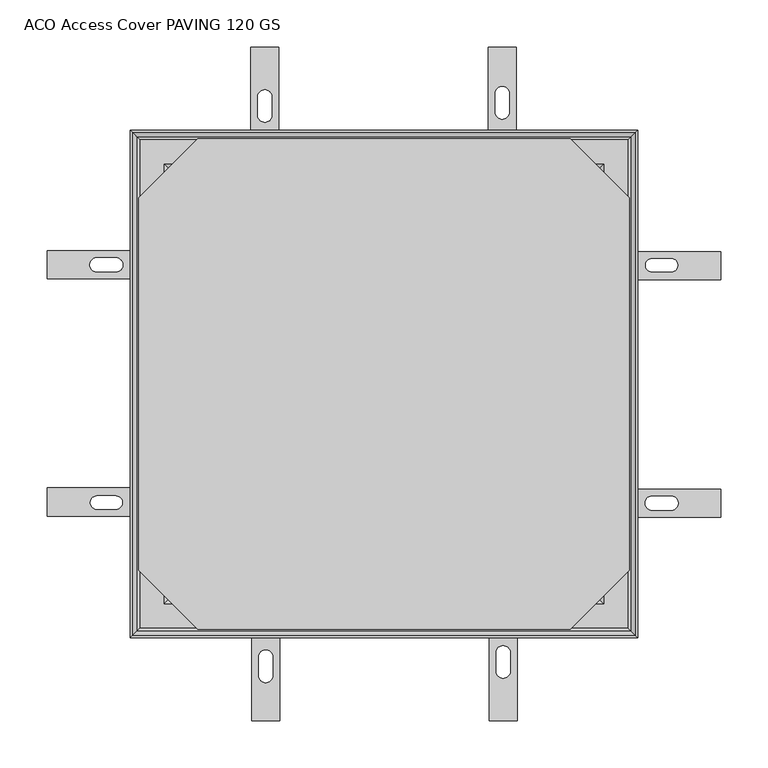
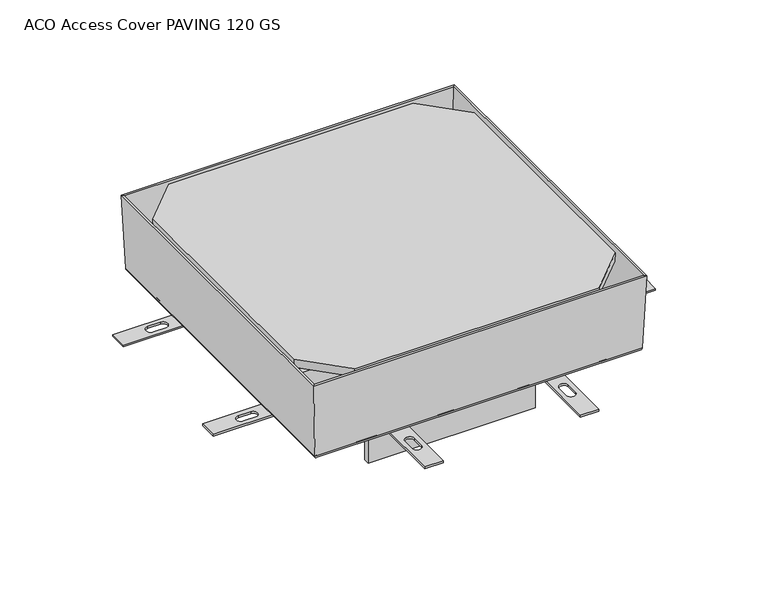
"""IFC4 building model written with IfcOpenShell, lengths in millimetres: proxy geometry, ACO Access Cover PAVING 120 GS : ACO Access Cover PAVING 120 400 x 400 C250 GS."""

from ifc_helpers import new_model, si_unit, point, frame, frame_2d, origin, place, context, project, spatial, polyline, circle_curve, ellipse_curve, trimmed, segment, composite_curve, outline, extrude, faceted_brep, source, transform, mapped, element, save
from ifc_brep_helpers import plane_surface, cylinder_surface, revolved_surface, advanced_brep


def aco_access_cover_paving_120_gs_35cc5e94(model_context):
    return source(origin(), model_context, "Body", "SolidModel", [
        advanced_brep(
        [(199.9602468, 199.9602468, -138.0001426), (205.9602468, 205.9602468, -144.0001426), (205.9602468, -205.9602468, -144.0001426), (199.9602468, -199.9602468, -138.0001426), (199.9602468, 199.9602468, -129.0001426), (199.9602468, -199.9602468, -129.0001426), (202.9602468, 202.9602468, -138.0001426), (202.9602468, 202.9602468, -129.0001426), (202.9602468, -202.9602468, -129.0001426), (202.9602468, -202.9602468, -138.0001426), (205.9602468, 205.9602468, -141.0001426), (205.9602468, -205.9602468, -141.0001426), (217.5962858, 217.5962858, -140.1214629), (215.4749655, 215.4749655, -141.0001426), (215.4749655, -215.4749655, -141.0001426), (217.5962858, -217.5962858, -140.1214629), (228.9602468, 228.9602468, -128.7575019), (228.9602468, -228.9602468, -128.7575019), (233.2028875, 233.2028875, -127.0001426), (233.2028875, -233.2028875, -127.0001426), (262.1642867, 262.1642867, -124.104841), (259.1661142, 259.1661142, -127.0001426), (259.1661142, -259.1661142, -127.0001426), (262.1642867, -262.1642867, -124.104841), (266.5017744, 266.5017744, 0.1045559), (266.5017744, -266.5017744, 0.1045559), (269.4999469, 269.4999469, -0.0001426), (269.4999469, -269.4999469, -0.0001426), (265.1624592, 265.1624592, -124.2095395), (265.1624592, -265.1624592, -124.2095395), (259.1661142, 259.1661142, -130.0001426), (259.1661142, -259.1661142, -130.0001426), (231.0815672, 231.0815672, -130.8788222), (233.2028875, 233.2028875, -130.0001426), (233.2028875, -233.2028875, -130.0001426), (231.0815672, -231.0815672, -130.8788222), (219.7176062, 219.7176062, -142.2427832), (219.7176062, -219.7176062, -142.2427832), (215.4749655, 215.4749655, -144.0001426), (215.4749655, -215.4749655, -144.0001426), (-205.9602468, -205.9602468, -144.0001426), (-199.9602468, -199.9602468, -138.0001426), (-199.9602468, -199.9602468, -129.0001426), (-202.9602468, -202.9602468, -129.0001426), (-202.9602468, -202.9602468, -138.0001426), (-205.9602468, -205.9602468, -141.0001426), (-215.4749655, -215.4749655, -141.0001426), (-217.5962858, -217.5962858, -140.1214629), (-228.9602468, -228.9602468, -128.7575019), (-233.2028875, -233.2028875, -127.0001426), (-259.1661142, -259.1661142, -127.0001426), (-262.1642867, -262.1642867, -124.104841), (-266.5017744, -266.5017744, 0.1045559), (-269.4999469, -269.4999469, -0.0001426), (-265.1624592, -265.1624592, -124.2095395), (-259.1661142, -259.1661142, -130.0001426), (-233.2028875, -233.2028875, -130.0001426), (-231.0815672, -231.0815672, -130.8788222), (-219.7176062, -219.7176062, -142.2427832), (-215.4749655, -215.4749655, -144.0001426), (-205.9602468, 205.9602468, -144.0001426), (-199.9602468, 199.9602468, -138.0001426), (-199.9602468, 199.9602468, -129.0001426), (-202.9602468, 202.9602468, -129.0001426), (-202.9602468, 202.9602468, -138.0001426), (-205.9602468, 205.9602468, -141.0001426), (-215.4749655, 215.4749655, -141.0001426), (-217.5962858, 217.5962858, -140.1214629), (-228.9602468, 228.9602468, -128.7575019), (-233.2028875, 233.2028875, -127.0001426), (-259.1661142, 259.1661142, -127.0001426), (-262.1642867, 262.1642867, -124.104841), (-266.5017744, 266.5017744, 0.1045559), (-269.4999469, 269.4999469, -0.0001426), (-265.1624592, 265.1624592, -124.2095395), (-259.1661142, 259.1661142, -130.0001426), (-233.2028875, 233.2028875, -130.0001426), (-231.0815672, 231.0815672, -130.8788222), (-219.7176062, 219.7176062, -142.2427832), (-215.4749655, 215.4749655, -144.0001426)],
        [
            (0, 1, ellipse_curve(frame((205.9602468, 205.9602468, -138.0001426), z_axis=(0.7071067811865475, -0.7071067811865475, 0.0), x_axis=(0.7071067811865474, 0.7071067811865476, 0.0)), 8.4852814, 6.0)),
            (1, 2),
            (2, 3, ellipse_curve(frame((205.9602468, -205.9602468, -138.0001426), z_axis=(0.7071067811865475, 0.7071067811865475, 0.0), x_axis=(-0.7071067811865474, 0.7071067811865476, 0.0)), 8.4852814, 6.0)),
            (3, 0),
            (4, 0),
            (3, 5),
            (5, 4),
            (6, 7),
            (7, 8),
            (8, 9),
            (9, 6),
            (10, 6, ellipse_curve(frame((205.9602468, 205.9602468, -138.0001426), z_axis=(-0.7071067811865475, 0.7071067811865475, 0.0), x_axis=(-0.7071067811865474, -0.7071067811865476, 0.0)), 4.2426407, 3.0)),
            (9, 11, ellipse_curve(frame((205.9602468, -205.9602468, -138.0001426), z_axis=(-0.7071067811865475, -0.7071067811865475, 0.0), x_axis=(0.7071067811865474, -0.7071067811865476, 0.0)), 4.2426407, 3.0)),
            (11, 10),
            (12, 13, ellipse_curve(frame((215.4749655, 215.4749655, -138.0001426), z_axis=(-0.7071067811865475, 0.7071067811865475, 0.0), x_axis=(-0.7071067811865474, -0.7071067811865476, 0.0)), 4.2426407, 3.0)),
            (13, 14),
            (14, 15, ellipse_curve(frame((215.4749655, -215.4749655, -138.0001426), z_axis=(-0.7071067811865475, -0.7071067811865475, 0.0), x_axis=(0.7071067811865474, -0.7071067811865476, 0.0)), 4.2426407, 3.0)),
            (15, 12),
            (16, 12),
            (15, 17),
            (17, 16),
            (18, 16, ellipse_curve(frame((233.2028875, 233.2028875, -133.0001426), z_axis=(0.7071067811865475, -0.7071067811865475, 0.0), x_axis=(0.7071067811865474, 0.7071067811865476, 0.0)), 8.4852814, 6.0)),
            (17, 19, ellipse_curve(frame((233.2028875, -233.2028875, -133.0001426), z_axis=(0.7071067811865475, 0.7071067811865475, 0.0), x_axis=(-0.7071067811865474, 0.7071067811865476, 0.0)), 8.4852814, 6.0)),
            (19, 18),
            (20, 21, ellipse_curve(frame((259.1661142, 259.1661142, -124.0001426), z_axis=(-0.7071067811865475, 0.7071067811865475, 0.0), x_axis=(-0.7071067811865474, -0.7071067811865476, 0.0)), 4.2426407, 3.0)),
            (21, 22),
            (22, 23, ellipse_curve(frame((259.1661142, -259.1661142, -124.0001426), z_axis=(-0.7071067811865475, -0.7071067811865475, 0.0), x_axis=(0.7071067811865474, -0.7071067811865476, 0.0)), 4.2426407, 3.0)),
            (23, 20),
            (24, 20),
            (23, 25),
            (25, 24),
            (26, 24),
            (25, 27),
            (27, 26),
            (28, 26),
            (27, 29),
            (29, 28),
            (30, 28, ellipse_curve(frame((259.1661142, 259.1661142, -124.0001426), z_axis=(0.7071067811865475, -0.7071067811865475, 0.0), x_axis=(0.7071067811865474, 0.7071067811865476, 0.0)), 8.4852814, 6.0)),
            (29, 31, ellipse_curve(frame((259.1661142, -259.1661142, -124.0001426), z_axis=(0.7071067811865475, 0.7071067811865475, 0.0), x_axis=(-0.7071067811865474, 0.7071067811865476, 0.0)), 8.4852814, 6.0)),
            (31, 30),
            (32, 33, ellipse_curve(frame((233.2028875, 233.2028875, -133.0001426), z_axis=(-0.7071067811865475, 0.7071067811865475, 0.0), x_axis=(-0.7071067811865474, -0.7071067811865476, 0.0)), 4.2426407, 3.0)),
            (33, 34),
            (34, 35, ellipse_curve(frame((233.2028875, -233.2028875, -133.0001426), z_axis=(-0.7071067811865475, -0.7071067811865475, 0.0), x_axis=(0.7071067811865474, -0.7071067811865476, 0.0)), 4.2426407, 3.0)),
            (35, 32),
            (36, 32),
            (35, 37),
            (37, 36),
            (38, 36, ellipse_curve(frame((215.4749655, 215.4749655, -138.0001426), z_axis=(0.7071067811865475, -0.7071067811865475, 0.0), x_axis=(0.7071067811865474, 0.7071067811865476, 0.0)), 8.4852814, 6.0)),
            (37, 39, ellipse_curve(frame((215.4749655, -215.4749655, -138.0001426), z_axis=(0.7071067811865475, 0.7071067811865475, 0.0), x_axis=(-0.7071067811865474, 0.7071067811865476, 0.0)), 8.4852814, 6.0)),
            (39, 38),
            (2, 40),
            (40, 41, ellipse_curve(frame((-205.9602468, -205.9602468, -138.0001426), z_axis=(0.7071067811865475, -0.7071067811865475, 0.0), x_axis=(0.7071067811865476, 0.7071067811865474, 0.0)), 8.4852814, 6.0)),
            (41, 3),
            (41, 42),
            (42, 5),
            (8, 43),
            (43, 44),
            (44, 9),
            (44, 45, ellipse_curve(frame((-205.9602468, -205.9602468, -138.0001426), z_axis=(-0.7071067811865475, 0.7071067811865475, 0.0), x_axis=(-0.7071067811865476, -0.7071067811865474, 0.0)), 4.2426407, 3.0)),
            (45, 11),
            (14, 46),
            (46, 47, ellipse_curve(frame((-215.4749655, -215.4749655, -138.0001426), z_axis=(-0.7071067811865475, 0.7071067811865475, 0.0), x_axis=(-0.7071067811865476, -0.7071067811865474, 0.0)), 4.2426407, 3.0)),
            (47, 15),
            (47, 48),
            (48, 17),
            (48, 49, ellipse_curve(frame((-233.2028875, -233.2028875, -133.0001426), z_axis=(0.7071067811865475, -0.7071067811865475, 0.0), x_axis=(0.7071067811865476, 0.7071067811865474, 0.0)), 8.4852814, 6.0)),
            (49, 19),
            (22, 50),
            (50, 51, ellipse_curve(frame((-259.1661142, -259.1661142, -124.0001426), z_axis=(-0.7071067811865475, 0.7071067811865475, 0.0), x_axis=(-0.7071067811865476, -0.7071067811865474, 0.0)), 4.2426407, 3.0)),
            (51, 23),
            (51, 52),
            (52, 25),
            (52, 53),
            (53, 27),
            (53, 54),
            (54, 29),
            (54, 55, ellipse_curve(frame((-259.1661142, -259.1661142, -124.0001426), z_axis=(0.7071067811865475, -0.7071067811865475, 0.0), x_axis=(0.7071067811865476, 0.7071067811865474, 0.0)), 8.4852814, 6.0)),
            (55, 31),
            (34, 56),
            (56, 57, ellipse_curve(frame((-233.2028875, -233.2028875, -133.0001426), z_axis=(-0.7071067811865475, 0.7071067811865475, 0.0), x_axis=(-0.7071067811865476, -0.7071067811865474, 0.0)), 4.2426407, 3.0)),
            (57, 35),
            (57, 58),
            (58, 37),
            (58, 59, ellipse_curve(frame((-215.4749655, -215.4749655, -138.0001426), z_axis=(0.7071067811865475, -0.7071067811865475, 0.0), x_axis=(0.7071067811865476, 0.7071067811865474, 0.0)), 8.4852814, 6.0)),
            (59, 39),
            (40, 60),
            (60, 61, ellipse_curve(frame((-205.9602468, 205.9602468, -138.0001426), z_axis=(-0.7071067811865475, -0.7071067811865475, 0.0), x_axis=(0.7071067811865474, -0.7071067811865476, 0.0)), 8.4852814, 6.0)),
            (61, 41),
            (61, 62),
            (62, 42),
            (43, 63),
            (63, 64),
            (64, 44),
            (64, 65, ellipse_curve(frame((-205.9602468, 205.9602468, -138.0001426), z_axis=(0.7071067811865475, 0.7071067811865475, 0.0), x_axis=(-0.7071067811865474, 0.7071067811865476, 0.0)), 4.2426407, 3.0)),
            (65, 45),
            (46, 66),
            (66, 67, ellipse_curve(frame((-215.4749655, 215.4749655, -138.0001426), z_axis=(0.7071067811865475, 0.7071067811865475, 0.0), x_axis=(-0.7071067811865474, 0.7071067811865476, 0.0)), 4.2426407, 3.0)),
            (67, 47),
            (67, 68),
            (68, 48),
            (68, 69, ellipse_curve(frame((-233.2028875, 233.2028875, -133.0001426), z_axis=(-0.7071067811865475, -0.7071067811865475, 0.0), x_axis=(0.7071067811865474, -0.7071067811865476, 0.0)), 8.4852814, 6.0)),
            (69, 49),
            (50, 70),
            (70, 71, ellipse_curve(frame((-259.1661142, 259.1661142, -124.0001426), z_axis=(0.7071067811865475, 0.7071067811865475, 0.0), x_axis=(-0.7071067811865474, 0.7071067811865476, 0.0)), 4.2426407, 3.0)),
            (71, 51),
            (71, 72),
            (72, 52),
            (72, 73),
            (73, 53),
            (73, 74),
            (74, 54),
            (74, 75, ellipse_curve(frame((-259.1661142, 259.1661142, -124.0001426), z_axis=(-0.7071067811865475, -0.7071067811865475, 0.0), x_axis=(0.7071067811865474, -0.7071067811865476, 0.0)), 8.4852814, 6.0)),
            (75, 55),
            (56, 76),
            (76, 77, ellipse_curve(frame((-233.2028875, 233.2028875, -133.0001426), z_axis=(0.7071067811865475, 0.7071067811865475, 0.0), x_axis=(-0.7071067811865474, 0.7071067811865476, 0.0)), 4.2426407, 3.0)),
            (77, 57),
            (77, 78),
            (78, 58),
            (78, 79, ellipse_curve(frame((-215.4749655, 215.4749655, -138.0001426), z_axis=(-0.7071067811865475, -0.7071067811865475, 0.0), x_axis=(0.7071067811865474, -0.7071067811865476, 0.0)), 8.4852814, 6.0)),
            (79, 59),
            (60, 1),
            (0, 61),
            (4, 62),
            (7, 63),
            (6, 64),
            (10, 65),
            (13, 66),
            (12, 67),
            (16, 68),
            (18, 69),
            (21, 70),
            (20, 71),
            (24, 72),
            (26, 73),
            (28, 74),
            (30, 75),
            (33, 76),
            (32, 77),
            (36, 78),
            (38, 79),
        ],
        [
            cylinder_surface(frame((205.9602468, 269.5, -138.0001426), z_axis=(0.0, 1.0, 0.0), x_axis=(1.0, 0.0, 0.0)), 6.0),
            plane_surface(frame((199.9602468, 199.9602468, -138.0001426), z_axis=(-1.0, 0.0, 0.0), x_axis=(0.0, -1.0, 0.0))),
            plane_surface(frame((202.9602468, 202.9602468, -129.0001426), z_axis=(1.0, 0.0, 0.0), x_axis=(0.0, -1.0, 0.0))),
            revolved_surface(polyline([(208.9602468, -208.960246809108, -138.0001426), (208.9602468, 208.96024680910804, -138.0001426)]), (205.9602468, 269.5, -138.0001426), (0.0, -1.0, 0.0)),
            revolved_surface(polyline([(218.4749655, -218.47496550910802, -138.0001426), (218.4749655, 218.47496550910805, -138.0001426)]), (215.4749655, 269.5, -138.0001426), (0.0, -1.0, 0.0)),
            plane_surface(frame((217.5962858, 217.5962858, -140.1214629), z_axis=(-0.7071067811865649, 0.0, 0.7071067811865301), x_axis=(0.0, -1.0, 0.0))),
            cylinder_surface(frame((233.2028875, 269.5, -133.0001426), z_axis=(0.0, 1.0, 0.0), x_axis=(1.0, 0.0, 0.0)), 6.0),
            revolved_surface(polyline([(262.1661142, -262.16611420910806, -124.0001426), (262.1661142, 262.166114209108, -124.0001426)]), (259.1661142, 269.5, -124.0001426), (0.0, -1.0, 0.0)),
            plane_surface(frame((262.1642867, 262.1642867, -124.104841), z_axis=(-0.9993908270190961, 0.0, 0.03489949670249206), x_axis=(0.0, -1.0, 0.0))),
            plane_surface(frame((266.5017744, 266.5017744, 0.1045559), z_axis=(0.03489949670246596, 0.0, 0.999390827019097), x_axis=(0.0, -1.0, 0.0))),
            plane_surface(frame((269.4999469, 269.4999469, -0.0001426), z_axis=(0.9993908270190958, 0.0, -0.03489949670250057), x_axis=(0.0, -1.0, 0.0))),
            cylinder_surface(frame((259.1661142, 269.5, -124.0001426), z_axis=(0.0, 1.0, 0.0), x_axis=(1.0, 0.0, 0.0)), 6.0),
            revolved_surface(polyline([(236.2028875, -236.202887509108, -133.0001426), (236.2028875, 236.20288750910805, -133.0001426)]), (233.2028875, 269.5, -133.0001426), (0.0, -1.0, 0.0)),
            plane_surface(frame((231.0815672, 231.0815672, -130.8788222), z_axis=(0.7071067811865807, 0.0, -0.7071067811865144), x_axis=(0.0, -1.0, 0.0))),
            cylinder_surface(frame((215.4749655, 269.5, -138.0001426), z_axis=(0.0, 1.0, 0.0), x_axis=(1.0, 0.0, 0.0)), 6.0),
            cylinder_surface(frame((269.5, -205.9602468, -138.0001426), z_axis=(1.0, 0.0, 0.0), x_axis=(0.0, -1.0, 0.0)), 6.0),
            plane_surface(frame((199.9602468, -199.9602468, -138.0001426), z_axis=(0.0, 1.0, 0.0), x_axis=(-1.0, 0.0, 0.0))),
            plane_surface(frame((202.9602468, -202.9602468, -129.0001426), z_axis=(0.0, -1.0, 0.0), x_axis=(-1.0, 0.0, 0.0))),
            revolved_surface(polyline([(-208.960246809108, -208.9602468, -138.0001426), (208.96024680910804, -208.9602468, -138.0001426)]), (269.5, -205.9602468, -138.0001426), (-1.0, 0.0, 0.0)),
            revolved_surface(polyline([(-218.47496550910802, -218.4749655, -138.0001426), (218.47496550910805, -218.4749655, -138.0001426)]), (269.5, -215.4749655, -138.0001426), (-1.0, 0.0, 0.0)),
            plane_surface(frame((217.5962858, -217.5962858, -140.1214629), z_axis=(0.0, 0.7071067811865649, 0.7071067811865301), x_axis=(-1.0, 0.0, 0.0))),
            cylinder_surface(frame((269.5, -233.2028875, -133.0001426), z_axis=(1.0, 0.0, 0.0), x_axis=(0.0, -1.0, 0.0)), 6.0),
            revolved_surface(polyline([(-262.16611420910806, -262.1661142, -124.0001426), (262.166114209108, -262.1661142, -124.0001426)]), (269.5, -259.1661142, -124.0001426), (-1.0, 0.0, 0.0)),
            plane_surface(frame((262.1642867, -262.1642867, -124.104841), z_axis=(0.0, 0.9993908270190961, 0.03489949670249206), x_axis=(-1.0, 0.0, 0.0))),
            plane_surface(frame((266.5017744, -266.5017744, 0.1045559), z_axis=(0.0, -0.03489949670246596, 0.999390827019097), x_axis=(-1.0, 0.0, 0.0))),
            plane_surface(frame((269.4999469, -269.4999469, -0.0001426), z_axis=(0.0, -0.9993908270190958, -0.03489949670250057), x_axis=(-1.0, 0.0, 0.0))),
            cylinder_surface(frame((269.5, -259.1661142, -124.0001426), z_axis=(1.0, 0.0, 0.0), x_axis=(0.0, -1.0, 0.0)), 6.0),
            revolved_surface(polyline([(-236.202887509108, -236.2028875, -133.0001426), (236.20288750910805, -236.2028875, -133.0001426)]), (269.5, -233.2028875, -133.0001426), (-1.0, 0.0, 0.0)),
            plane_surface(frame((231.0815672, -231.0815672, -130.8788222), z_axis=(0.0, -0.7071067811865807, -0.7071067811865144), x_axis=(-1.0, 0.0, 0.0))),
            cylinder_surface(frame((269.5, -215.4749655, -138.0001426), z_axis=(1.0, 0.0, 0.0), x_axis=(0.0, -1.0, 0.0)), 6.0),
            cylinder_surface(frame((-205.9602468, -269.5, -138.0001426), z_axis=(0.0, -1.0, 0.0), x_axis=(-1.0, 0.0, 0.0)), 6.0),
            plane_surface(frame((-199.9602468, -199.9602468, -138.0001426), z_axis=(1.0, 0.0, 0.0), x_axis=(0.0, 1.0, 0.0))),
            plane_surface(frame((-202.9602468, -202.9602468, -129.0001426), z_axis=(-1.0, 0.0, 0.0), x_axis=(0.0, 1.0, 0.0))),
            revolved_surface(polyline([(-208.9602468, 208.960246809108, -138.0001426), (-208.9602468, -208.96024680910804, -138.0001426)]), (-205.9602468, -269.5, -138.0001426), (0.0, 1.0, 0.0)),
            revolved_surface(polyline([(-218.4749655, 218.47496550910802, -138.0001426), (-218.4749655, -218.47496550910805, -138.0001426)]), (-215.4749655, -269.5, -138.0001426), (0.0, 1.0, 0.0)),
            plane_surface(frame((-217.5962858, -217.5962858, -140.1214629), z_axis=(0.7071067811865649, 0.0, 0.7071067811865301), x_axis=(0.0, 1.0, 0.0))),
            cylinder_surface(frame((-233.2028875, -269.5, -133.0001426), z_axis=(0.0, -1.0, 0.0), x_axis=(-1.0, 0.0, 0.0)), 6.0),
            revolved_surface(polyline([(-262.1661142, 262.16611420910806, -124.0001426), (-262.1661142, -262.166114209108, -124.0001426)]), (-259.1661142, -269.5, -124.0001426), (0.0, 1.0, 0.0)),
            plane_surface(frame((-262.1642867, -262.1642867, -124.104841), z_axis=(0.9993908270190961, 0.0, 0.03489949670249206), x_axis=(0.0, 1.0, 0.0))),
            plane_surface(frame((-266.5017744, -266.5017744, 0.1045559), z_axis=(-0.03489949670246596, 0.0, 0.999390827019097), x_axis=(0.0, 1.0, 0.0))),
            plane_surface(frame((-269.4999469, -269.4999469, -0.0001426), z_axis=(-0.9993908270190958, 0.0, -0.03489949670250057), x_axis=(0.0, 1.0, 0.0))),
            cylinder_surface(frame((-259.1661142, -269.5, -124.0001426), z_axis=(0.0, -1.0, 0.0), x_axis=(-1.0, 0.0, 0.0)), 6.0),
            revolved_surface(polyline([(-236.2028875, 236.202887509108, -133.0001426), (-236.2028875, -236.20288750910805, -133.0001426)]), (-233.2028875, -269.5, -133.0001426), (0.0, 1.0, 0.0)),
            plane_surface(frame((-231.0815672, -231.0815672, -130.8788222), z_axis=(-0.7071067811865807, 0.0, -0.7071067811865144), x_axis=(0.0, 1.0, 0.0))),
            cylinder_surface(frame((-215.4749655, -269.5, -138.0001426), z_axis=(0.0, -1.0, 0.0), x_axis=(-1.0, 0.0, 0.0)), 6.0),
            cylinder_surface(frame((-269.5, 205.9602468, -138.0001426), z_axis=(-1.0, 0.0, 0.0), x_axis=(0.0, 1.0, 0.0)), 6.0),
            plane_surface(frame((-199.9602468, 199.9602468, -138.0001426), z_axis=(0.0, -1.0, 0.0), x_axis=(1.0, 0.0, 0.0))),
            plane_surface(frame((-199.9602468, 199.9602468, -129.0001426), z_axis=(0.0, 0.0, 1.0), x_axis=(1.0, 0.0, 0.0))),
            plane_surface(frame((-202.9602468, 202.9602468, -129.0001426), z_axis=(0.0, 1.0, 0.0), x_axis=(1.0, 0.0, 0.0))),
            revolved_surface(polyline([(208.960246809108, 208.9602468, -138.0001426), (-208.96024680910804, 208.9602468, -138.0001426)]), (-269.5, 205.9602468, -138.0001426), (1.0, 0.0, 0.0)),
            plane_surface(frame((-205.9602468, 205.9602468, -141.0001426), z_axis=(0.0, 0.0, 1.0), x_axis=(1.0, 0.0, 0.0))),
            revolved_surface(polyline([(218.47496550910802, 218.4749655, -138.0001426), (-218.47496550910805, 218.4749655, -138.0001426)]), (-269.5, 215.4749655, -138.0001426), (1.0, 0.0, 0.0)),
            plane_surface(frame((-217.5962858, 217.5962858, -140.1214629), z_axis=(0.0, -0.7071067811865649, 0.7071067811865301), x_axis=(1.0, 0.0, 0.0))),
            cylinder_surface(frame((-269.5, 233.2028875, -133.0001426), z_axis=(-1.0, 0.0, 0.0), x_axis=(0.0, 1.0, 0.0)), 6.0),
            plane_surface(frame((-233.2028875, 233.2028875, -127.0001426), z_axis=(0.0, 0.0, 1.0), x_axis=(1.0, 0.0, 0.0))),
            revolved_surface(polyline([(262.16611420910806, 262.1661142, -124.0001426), (-262.166114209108, 262.1661142, -124.0001426)]), (-269.5, 259.1661142, -124.0001426), (1.0, 0.0, 0.0)),
            plane_surface(frame((-262.1642867, 262.1642867, -124.104841), z_axis=(0.0, -0.9993908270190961, 0.03489949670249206), x_axis=(1.0, 0.0, 0.0))),
            plane_surface(frame((-266.5017744, 266.5017744, 0.1045559), z_axis=(0.0, 0.03489949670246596, 0.999390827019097), x_axis=(1.0, 0.0, 0.0))),
            plane_surface(frame((-269.4999469, 269.4999469, -0.0001426), z_axis=(0.0, 0.9993908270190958, -0.03489949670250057), x_axis=(1.0, 0.0, 0.0))),
            cylinder_surface(frame((-269.5, 259.1661142, -124.0001426), z_axis=(-1.0, 0.0, 0.0), x_axis=(0.0, 1.0, 0.0)), 6.0),
            plane_surface(frame((-259.1661142, 259.1661142, -130.0001426), z_axis=(0.0, 0.0, -1.0), x_axis=(1.0, 0.0, 0.0))),
            revolved_surface(polyline([(236.202887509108, 236.2028875, -133.0001426), (-236.20288750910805, 236.2028875, -133.0001426)]), (-269.5, 233.2028875, -133.0001426), (1.0, 0.0, 0.0)),
            plane_surface(frame((-231.0815672, 231.0815672, -130.8788222), z_axis=(0.0, 0.7071067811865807, -0.7071067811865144), x_axis=(1.0, 0.0, 0.0))),
            cylinder_surface(frame((-269.5, 215.4749655, -138.0001426), z_axis=(-1.0, 0.0, 0.0), x_axis=(0.0, 1.0, 0.0)), 6.0),
            plane_surface(frame((-215.4749655, 215.4749655, -144.0001426), z_axis=(0.0, 0.0, -1.0), x_axis=(1.0, 0.0, 0.0))),
        ],
        [
            (0, [[1, 2, 3, 4]]),
            (1, [[5, -4, 6, 7]]),
            (2, [[8, 9, 10, 11]]),
            (3, [[12, -11, 13, 14]]),
            (4, [[15, 16, 17, 18]]),
            (5, [[19, -18, 20, 21]]),
            (6, [[22, -21, 23, 24]]),
            (7, [[25, 26, 27, 28]]),
            (8, [[29, -28, 30, 31]]),
            (9, [[32, -31, 33, 34]]),
            (10, [[35, -34, 36, 37]]),
            (11, [[38, -37, 39, 40]]),
            (12, [[41, 42, 43, 44]]),
            (13, [[45, -44, 46, 47]]),
            (14, [[48, -47, 49, 50]]),
            (15, [[-3, 51, 52, 53]]),
            (16, [[-6, -53, 54, 55]]),
            (17, [[-10, 56, 57, 58]]),
            (18, [[-13, -58, 59, 60]]),
            (19, [[-17, 61, 62, 63]]),
            (20, [[-20, -63, 64, 65]]),
            (21, [[-23, -65, 66, 67]]),
            (22, [[-27, 68, 69, 70]]),
            (23, [[-30, -70, 71, 72]]),
            (24, [[-33, -72, 73, 74]]),
            (25, [[-36, -74, 75, 76]]),
            (26, [[-39, -76, 77, 78]]),
            (27, [[-43, 79, 80, 81]]),
            (28, [[-46, -81, 82, 83]]),
            (29, [[-49, -83, 84, 85]]),
            (30, [[-52, 86, 87, 88]]),
            (31, [[-54, -88, 89, 90]]),
            (32, [[-57, 91, 92, 93]]),
            (33, [[-59, -93, 94, 95]]),
            (34, [[-62, 96, 97, 98]]),
            (35, [[-64, -98, 99, 100]]),
            (36, [[-66, -100, 101, 102]]),
            (37, [[-69, 103, 104, 105]]),
            (38, [[-71, -105, 106, 107]]),
            (39, [[-73, -107, 108, 109]]),
            (40, [[-75, -109, 110, 111]]),
            (41, [[-77, -111, 112, 113]]),
            (42, [[-80, 114, 115, 116]]),
            (43, [[-82, -116, 117, 118]]),
            (44, [[-84, -118, 119, 120]]),
            (45, [[-87, 121, -1, 122]]),
            (46, [[-89, -122, -5, 123]]),
            (47, [[124, -91, -56, -9], [-55, -90, -123, -7]]),
            (48, [[-92, -124, -8, 125]]),
            (49, [[-94, -125, -12, 126]]),
            (50, [[127, -96, -61, -16], [-60, -95, -126, -14]]),
            (51, [[-97, -127, -15, 128]]),
            (52, [[-99, -128, -19, 129]]),
            (53, [[-101, -129, -22, 130]]),
            (54, [[131, -103, -68, -26], [-67, -102, -130, -24]]),
            (55, [[-104, -131, -25, 132]]),
            (56, [[-106, -132, -29, 133]]),
            (57, [[-108, -133, -32, 134]]),
            (58, [[-110, -134, -35, 135]]),
            (59, [[-112, -135, -38, 136]]),
            (60, [[-78, -113, -136, -40], [137, -114, -79, -42]]),
            (61, [[-115, -137, -41, 138]]),
            (62, [[-117, -138, -45, 139]]),
            (63, [[-119, -139, -48, 140]]),
            (64, [[-85, -120, -140, -50], [-121, -86, -51, -2]]),
        ],
    ),
        faceted_brep([(260.5098949, -197.8383984, -1.0), (260.5098949, 197.8383984, -1.0), (197.8383984, 260.5098949, -1.0), (-197.8383984, 260.5098949, -1.0), (-260.5098949, 197.8383984, -1.0), (-260.5098949, -197.8383984, -1.0), (-197.8383984, -260.5098949, -1.0), (197.8383984, -260.5098949, -1.0), (259.5107922, 197.4245565, -15.0), (259.5107922, -197.4245565, -15.0), (197.4245565, -259.5107922, -15.0), (-197.4245565, -259.5107922, -15.0), (-259.5107922, -197.4245565, -15.0), (-259.5107922, 197.4245565, -15.0), (-197.4245565, 259.5107922, -15.0), (197.4245565, 259.5107922, -15.0)], [[[0, 1, 2, 3, 4, 5, 6, 7]], [[8, 9, 10, 11, 12, 13, 14, 15]], [[8, 1, 0, 9]], [[10, 7, 6, 11]], [[12, 5, 4, 13]], [[14, 3, 2, 15]], [[1, 8, 15, 2]], [[9, 0, 7, 10]], [[11, 6, 5, 12]], [[13, 4, 3, 14]]]),
        extrude(outline(polyline([(-190.0, -135.0), (-190.0, 135.0), (-180.0, 135.0), (-180.0, 75.0), (180.0, 75.0), (180.0, 135.0), (190.0, 135.0), (190.0, -135.0), (180.0, -135.0), (180.0, -75.0), (-180.0, -75.0), (-180.0, -135.0), (-190.0, -135.0)]), holes=[polyline([(180.0, 65.0), (-180.0, 65.0), (-180.0, -65.0), (180.0, -65.0), (180.0, 65.0)])]), frame((0.0, 0.0, -227.1574529), z_axis=(0.0, 0.0, 1.0), x_axis=(1.0, 0.0, 0.0)), (0.0, 0.0, 1.0), 100.0),
        extrude(outline(polyline([(135.0, 190.0), (135.0, 180.0), (75.0, 180.0), (75.0, -180.0), (135.0, -180.0), (135.0, -190.0), (-135.0, -190.0), (-135.0, -180.0), (-75.0, -180.0), (-75.0, 180.0), (-135.0, 180.0), (-135.0, 190.0), (135.0, 190.0)]), holes=[polyline([(65.0, 180.0), (-65.0, 180.0), (-65.0, -180.0), (65.0, -180.0), (65.0, 180.0)])]), frame((0.0, 0.0, -227.1574529), z_axis=(0.0, 0.0, 1.0), x_axis=(1.0, 0.0, 0.0)), (0.0, 0.0, 1.0), 100.0),
        extrude(outline(polyline([(357.5, 140.5), (357.5, 110.5), (247.5, 110.5), (247.5, 140.5), (357.5, 140.5)]), holes=[composite_curve([segment(polyline([(304.7479972, 133.0), (284.5815148, 133.0)]), True, "CONTINUOUS"), segment(trimmed(circle_curve(frame_2d((284.5815148, 125.9707671)), 7.0292329), [point((284.5815148, 133.0))], [point((284.5815148, 118.9415342))], True, "CARTESIAN"), True, "CONTINUOUS"), segment(polyline([(284.5815148, 118.9415342), (304.7479972, 118.9415342)]), True, "CONTINUOUS"), segment(trimmed(circle_curve(frame_2d((304.7479972, 125.9707671)), 7.0292329), [point((304.7479972, 118.9415342))], [point((304.7479972, 133.0))], True, "CARTESIAN"), True, "CONTINUOUS")], self_intersect=False)]), frame((0.0, 0.0, -133.1), z_axis=(0.0, 0.0, 1.0), x_axis=(1.0, 0.0, 0.0)), (0.0, 0.0, 1.0), 2.9556545),
        extrude(outline(polyline([(-357.5, 141.5), (-247.5, 141.5), (-247.5, 111.5), (-357.5, 111.5), (-357.5, 141.5)]), holes=[composite_curve([segment(trimmed(circle_curve(frame_2d((-304.7479972, 126.4707671)), 7.5292329), [point((-304.7479972, 134.0))], [point((-304.7479972, 118.9415342))], True, "CARTESIAN"), True, "CONTINUOUS"), segment(polyline([(-304.7479972, 118.9415342), (-284.5815148, 118.9415342)]), True, "CONTINUOUS"), segment(trimmed(circle_curve(frame_2d((-284.5815148, 126.4707671)), 7.5292329), [point((-284.5815148, 118.9415342))], [point((-284.5815148, 134.0))], True, "CARTESIAN"), True, "CONTINUOUS"), segment(polyline([(-284.5815148, 134.0), (-304.7479972, 134.0)]), True, "CONTINUOUS")], self_intersect=False)]), frame((0.0, 0.0, -133.1), z_axis=(0.0, 0.0, 1.0), x_axis=(1.0, 0.0, 0.0)), (0.0, 0.0, 1.0), 2.9556545),
        extrude(outline(polyline([(357.5, -141.5), (247.5, -141.5), (247.5, -111.5), (357.5, -111.5), (357.5, -141.5)]), holes=[composite_curve([segment(trimmed(circle_curve(frame_2d((304.7479972, -126.5)), 7.5), [point((304.7479972, -134.0))], [point((304.7479972, -119.0))], True, "CARTESIAN"), True, "CONTINUOUS"), segment(polyline([(304.7479972, -119.0), (284.5815148, -119.0)]), True, "CONTINUOUS"), segment(trimmed(circle_curve(frame_2d((284.5815148, -126.5)), 7.5), [point((284.5815148, -119.0))], [point((284.5815148, -134.0))], True, "CARTESIAN"), True, "CONTINUOUS"), segment(polyline([(284.5815148, -134.0), (304.7479972, -134.0)]), True, "CONTINUOUS")], self_intersect=False)]), frame((0.0, 0.0, -133.1), z_axis=(0.0, 0.0, 1.0), x_axis=(1.0, 0.0, 0.0)), (0.0, 0.0, 1.0), 2.9556545),
        extrude(outline(polyline([(-357.5, -140.34375), (-357.5, -110.34375), (-247.5, -110.34375), (-247.5, -140.34375), (-357.5, -140.34375)]), holes=[composite_curve([segment(polyline([(-304.7479972, -132.84375), (-284.5815148, -132.84375)]), True, "CONTINUOUS"), segment(trimmed(circle_curve(frame_2d((-284.5815148, -125.8145171)), 7.0292329), [point((-284.5815148, -132.84375))], [point((-284.5815148, -118.7852842))], True, "CARTESIAN"), True, "CONTINUOUS"), segment(polyline([(-284.5815148, -118.7852842), (-304.7479972, -118.7852842)]), True, "CONTINUOUS"), segment(trimmed(circle_curve(frame_2d((-304.7479972, -125.8145171)), 7.0292329), [point((-304.7479972, -118.7852842))], [point((-304.7479972, -132.84375))], True, "CARTESIAN"), True, "CONTINUOUS")], self_intersect=False)]), frame((0.0, 0.0, -133.1), z_axis=(0.0, 0.0, 1.0), x_axis=(1.0, 0.0, 0.0)), (0.0, 0.0, 1.0), 2.9556545),
        extrude(outline(polyline([(-111.5, 357.5), (-111.5, 247.5), (-141.5, 247.5), (-141.5, 357.5), (-111.5, 357.5)]), holes=[composite_curve([segment(trimmed(circle_curve(frame_2d((-126.5, 285.1938476)), 7.5), [point((-134.0, 285.1938476))], [point((-119.0, 285.1938476))], True, "CARTESIAN"), True, "CONTINUOUS"), segment(polyline([(-119.0, 285.1938476), (-119.0, 304.7678771)]), True, "CONTINUOUS"), segment(trimmed(circle_curve(frame_2d((-126.5, 304.7678771)), 7.5), [point((-119.0, 304.7678771))], [point((-134.0, 304.7678771))], True, "CARTESIAN"), True, "CONTINUOUS"), segment(polyline([(-134.0, 304.7678771), (-134.0, 285.1938476)]), True, "CONTINUOUS")], self_intersect=False)]), frame((0.0, 0.0, -133.1), z_axis=(0.0, 0.0, 1.0), x_axis=(1.0, 0.0, 0.0)), (0.0, 0.0, 1.0), 2.9556545),
        extrude(outline(polyline([(110.5, 357.5), (140.5, 357.5), (140.5, 247.5), (110.5, 247.5), (110.5, 357.5)]), holes=[composite_curve([segment(polyline([(133.0, 288.6610254), (133.0, 308.2350549)]), True, "CONTINUOUS"), segment(trimmed(circle_curve(frame_2d((125.5, 308.2350549)), 7.5), [point((133.0, 308.2350549))], [point((118.0, 308.2350549))], True, "CARTESIAN"), True, "CONTINUOUS"), segment(polyline([(118.0, 308.2350549), (118.0, 288.6610254)]), True, "CONTINUOUS"), segment(trimmed(circle_curve(frame_2d((125.5, 288.6610254)), 7.5), [point((118.0, 288.6610254))], [point((133.0, 288.6610254))], True, "CARTESIAN"), True, "CONTINUOUS")], self_intersect=False)]), frame((0.0, 0.0, -133.1), z_axis=(0.0, 0.0, 1.0), x_axis=(1.0, 0.0, 0.0)), (0.0, 0.0, 1.0), 2.9556545),
        extrude(outline(polyline([(-110.5, -357.5), (-140.5, -357.5), (-140.5, -247.5), (-110.5, -247.5), (-110.5, -357.5)]), holes=[composite_curve([segment(polyline([(-133.0, -289.8167513), (-133.0, -309.3907808)]), True, "CONTINUOUS"), segment(trimmed(circle_curve(frame_2d((-125.5, -309.3907808)), 7.5), [point((-133.0, -309.3907808))], [point((-118.0, -309.3907808))], True, "CARTESIAN"), True, "CONTINUOUS"), segment(polyline([(-118.0, -309.3907808), (-118.0, -289.8167513)]), True, "CONTINUOUS"), segment(trimmed(circle_curve(frame_2d((-125.5, -289.8167513)), 7.5), [point((-118.0, -289.8167513))], [point((-133.0, -289.8167513))], True, "CARTESIAN"), True, "CONTINUOUS")], self_intersect=False)]), frame((0.0, 0.0, -133.1), z_axis=(0.0, 0.0, 1.0), x_axis=(1.0, 0.0, 0.0)), (0.0, 0.0, 1.0), 2.9556545),
        extrude(outline(polyline([(111.5, -357.5), (111.5, -247.5), (141.5, -247.5), (141.5, -357.5), (111.5, -357.5)]), holes=[composite_curve([segment(trimmed(circle_curve(frame_2d((126.5, -285.1938476)), 7.5), [point((134.0, -285.1938476))], [point((119.0, -285.1938476))], True, "CARTESIAN"), True, "CONTINUOUS"), segment(polyline([(119.0, -285.1938476), (119.0, -304.7678771)]), True, "CONTINUOUS"), segment(trimmed(circle_curve(frame_2d((126.5, -304.7678771)), 7.5), [point((119.0, -304.7678771))], [point((134.0, -304.7678771))], True, "CARTESIAN"), True, "CONTINUOUS"), segment(polyline([(134.0, -304.7678771), (134.0, -285.1938476)]), True, "CONTINUOUS")], self_intersect=False)]), frame((0.0, 0.0, -133.1), z_axis=(0.0, 0.0, 1.0), x_axis=(1.0, 0.0, 0.0)), (0.0, 0.0, 1.0), 2.9556545),
    ])


if __name__ == "__main__":
    model = new_model("IFC4")
    model_context = context("Model", 3, world=origin())
    ifc_project = project(units=[si_unit("LENGTHUNIT", "METRE", prefix="MILLI")], contexts=[model_context])
    site = spatial("IfcSite", under=ifc_project)
    building = spatial("IfcBuilding", under=site)
    placement = place(None, origin())
    aco_access_cover_paving_120_gs_shape = aco_access_cover_paving_120_gs_35cc5e94(model_context)
    element("IfcBuildingElementProxy", 1, Name="ACO Access Cover PAVING 120 GS : ACO Access Cover PAVING 120 400 x 400 C250 GS", ObjectType="ACO Access Cover PAVING 120 GS : ACO Access Cover PAVING 120 400 x 400 C250 GS", at=placement, inside=building, context=model_context, shape_type="MappedRepresentation", body=[
        mapped(aco_access_cover_paving_120_gs_shape, transform((0.0, 0.0, 0.0), x_axis=(1.0, 0.0, 0.0), y_axis=(0.0, 1.0, 0.0), z_axis=(0.0, 0.0, 1.0))),
    ])
    save(model, "model.ifc")
